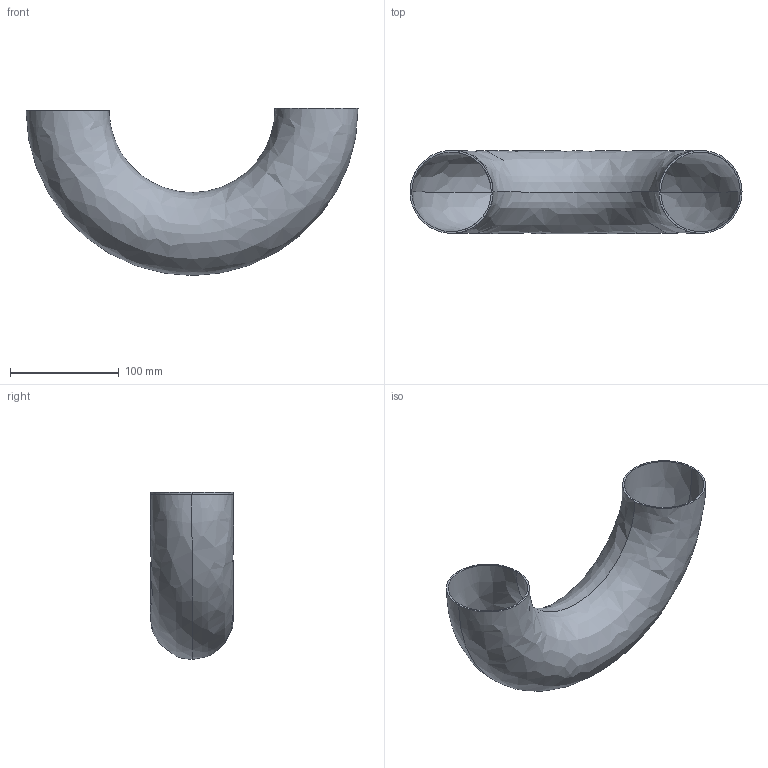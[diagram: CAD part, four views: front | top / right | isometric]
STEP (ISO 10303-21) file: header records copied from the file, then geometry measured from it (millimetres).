
FILE_DESCRIPTION (( 'STEP AP203' ), '1' );
FILE_NAME ('E2WU3.0.STEP', '2018-04-30T18:23:19', ( 'vneprd' ), ( 'Microsoft' ), 'SwSTEP 2.0', 'SolidWorks 2014', '' );
FILE_SCHEMA (( 'CONFIG_CONTROL_DESIGN' ));
Length unit declared in the file: inch
Products named in the file (1): E2WU3.0
Bounding box: 304.79 x 76.2 x 153.42 mm (x, y, z)
Volume: 138856.8 mm3; surface area: 168966.2 mm2
Topology: 1 solids, 1 shells, 10 faces, 22 edges, 14 vertices
Faces by surface type: bspline 8, plane 2
Entity records: 5861 total; most frequent: CARTESIAN_POINT 5595, ORIENTED_EDGE 44, DIRECTION 26, EDGE_CURVE 22, VERTEX_POINT 14, AXIS2_PLACEMENT_3D 13, EDGE_LOOP 12, B_SPLINE_CURVE_WITH_KNOTS 12
